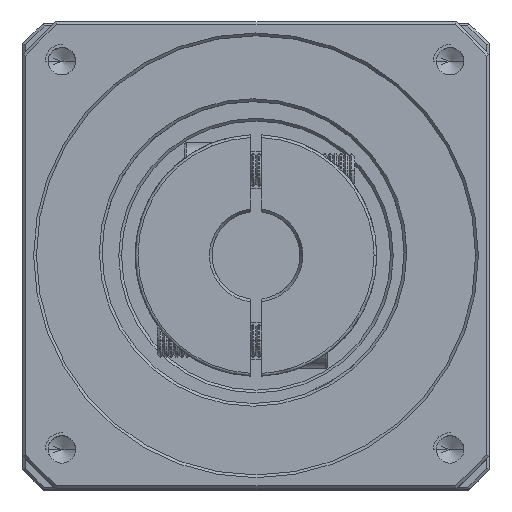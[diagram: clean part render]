
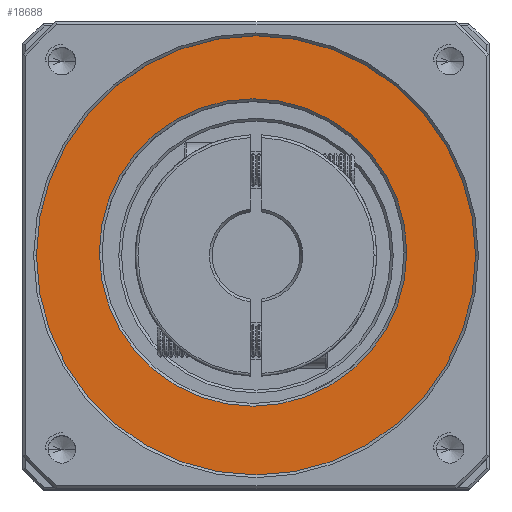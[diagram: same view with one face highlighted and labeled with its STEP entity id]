
A CAD part, top view. The second image highlights one B-rep face of the part: STEP entity #18688.
In plain terms, the highlighted planar face has unit normal (0, 0, 1).
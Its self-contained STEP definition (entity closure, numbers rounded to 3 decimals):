
#53 = DIRECTION ( 'NONE',  ( 0., 0., -1. ) ) ;
#2255 = CARTESIAN_POINT ( 'NONE',  ( -88.893, 24.356, 6.287 ) ) ;
#9417 = FACE_BOUND ( 'NONE', #35801, .T. ) ;
#10757 = DIRECTION ( 'NONE',  ( 1., 0., 0. ) ) ;
#13683 = CIRCLE ( 'NONE', #58598, 40. ) ;
#15753 = CARTESIAN_POINT ( 'NONE',  ( -117.435, 24.89, 6.287 ) ) ;
#18183 = VERTEX_POINT ( 'NONE', #15753 ) ;
#18688 = ADVANCED_FACE ( 'NONE', ( #54439, #9417 ), #67052, .T. ) ;
#26690 = AXIS2_PLACEMENT_3D ( 'NONE', #89347, #38560, #97796 ) ;
#33619 = AXIS2_PLACEMENT_3D ( 'NONE', #50310, #109563, #58880 ) ;
#35801 = EDGE_LOOP ( 'NONE', ( #57168, #61487 ) ) ;
#38203 = EDGE_LOOP ( 'NONE', ( #53613, #55283 ) ) ;
#38560 = DIRECTION ( 'NONE',  ( 0., 0., -1. ) ) ;
#41159 = DIRECTION ( 'NONE',  ( 0., 0., 1. ) ) ;
#43725 = CARTESIAN_POINT ( 'NONE',  ( -61.435, 24.89, 6.287 ) ) ;
#44169 = VERTEX_POINT ( 'NONE', #84594 ) ;
#48897 = AXIS2_PLACEMENT_3D ( 'NONE', #2255, #61440, #10757 ) ;
#50310 = CARTESIAN_POINT ( 'NONE',  ( -88.893, 24.356, 6.287 ) ) ;
#50726 = CARTESIAN_POINT ( 'NONE',  ( -89.435, 24.89, 6.287 ) ) ;
#53613 = ORIENTED_EDGE ( 'NONE', *, *, #82956, .T. ) ;
#54429 = CIRCLE ( 'NONE', #84504, 28. ) ;
#54439 = FACE_OUTER_BOUND ( 'NONE', #38203, .T. ) ;
#55283 = ORIENTED_EDGE ( 'NONE', *, *, #100014, .T. ) ;
#57168 = ORIENTED_EDGE ( 'NONE', *, *, #98292, .T. ) ;
#58598 = AXIS2_PLACEMENT_3D ( 'NONE', #91909, #41159, #100334 ) ;
#58880 = DIRECTION ( 'NONE',  ( 1., 0., 0. ) ) ;
#59274 = DIRECTION ( 'NONE',  ( 1., 0., 0. ) ) ;
#59410 = CARTESIAN_POINT ( 'NONE',  ( -48.893, 24.356, 6.287 ) ) ;
#61440 = DIRECTION ( 'NONE',  ( 0., 0., 1. ) ) ;
#61487 = ORIENTED_EDGE ( 'NONE', *, *, #79333, .T. ) ;
#61771 = VERTEX_POINT ( 'NONE', #43725 ) ;
#64889 = CIRCLE ( 'NONE', #26690, 28. ) ;
#67052 = PLANE ( 'NONE',  #33619 ) ;
#76108 = VERTEX_POINT ( 'NONE', #59410 ) ;
#79333 = EDGE_CURVE ( 'NONE', #18183, #61771, #54429, .T. ) ;
#82694 = CIRCLE ( 'NONE', #48897, 40. ) ;
#82956 = EDGE_CURVE ( 'NONE', #76108, #44169, #13683, .T. ) ;
#84504 = AXIS2_PLACEMENT_3D ( 'NONE', #50726, #53, #59274 ) ;
#84594 = CARTESIAN_POINT ( 'NONE',  ( -128.893, 24.356, 6.287 ) ) ;
#89347 = CARTESIAN_POINT ( 'NONE',  ( -89.435, 24.89, 6.287 ) ) ;
#91909 = CARTESIAN_POINT ( 'NONE',  ( -88.893, 24.356, 6.287 ) ) ;
#97796 = DIRECTION ( 'NONE',  ( 1., 0., 0. ) ) ;
#98292 = EDGE_CURVE ( 'NONE', #61771, #18183, #64889, .T. ) ;
#100014 = EDGE_CURVE ( 'NONE', #44169, #76108, #82694, .T. ) ;
#100334 = DIRECTION ( 'NONE',  ( 1., 0., 0. ) ) ;
#109563 = DIRECTION ( 'NONE',  ( 0., 0., 1. ) ) ;
